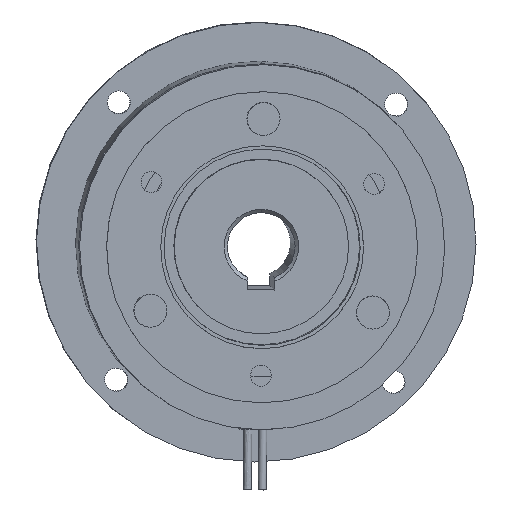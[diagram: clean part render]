
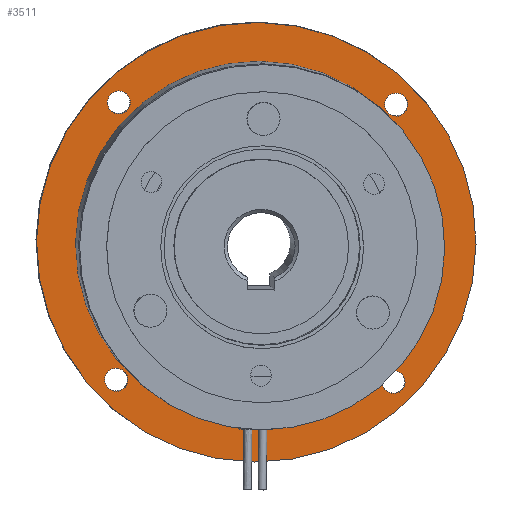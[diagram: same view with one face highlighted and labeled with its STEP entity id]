
A CAD part, top view. The second image highlights one B-rep face of the part: STEP entity #3511.
In plain terms, the highlighted planar face has unit normal (0.035, -0.032, 0.999) as drawn and (0, 0, 1) by its records, which use the part's own axes.
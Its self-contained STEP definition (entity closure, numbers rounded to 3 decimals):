
#2544=CARTESIAN_POINT('',(-32.5,0.,2.0));
#2545=VERTEX_POINT('',#2544);
#2561=CARTESIAN_POINT('',(32.5,0.,2.0));
#2562=VERTEX_POINT('',#2561);
#2569=CARTESIAN_POINT('',(0.0,0.0,2.0));
#2570=DIRECTION('',(0.0,0.0,-1.0));
#2571=DIRECTION('',(-1.0,0.0,0.0));
#2572=AXIS2_PLACEMENT_3D('',#2569,#2570,#2571);
#2573=CIRCLE('',#2572,32.5);
#2574=EDGE_CURVE('',#2562,#2545,#2573,.T.);
#2628=CARTESIAN_POINT('',(-22.206,20.506,2.0));
#2629=VERTEX_POINT('',#2628);
#2645=CARTESIAN_POINT('',(-18.806,20.506,2.0));
#2646=VERTEX_POINT('',#2645);
#2653=CARTESIAN_POINT('',(-20.506,20.506,2.0));
#2654=DIRECTION('',(0.0,0.0,-1.0));
#2655=DIRECTION('',(-1.0,0.0,0.0));
#2656=AXIS2_PLACEMENT_3D('',#2653,#2654,#2655);
#2657=CIRCLE('',#2656,1.7);
#2658=EDGE_CURVE('',#2629,#2646,#2657,.T.);
#2670=CARTESIAN_POINT('',(20.506,22.206,2.0));
#2671=VERTEX_POINT('',#2670);
#2687=CARTESIAN_POINT('',(20.506,18.806,2.0));
#2688=VERTEX_POINT('',#2687);
#2695=CARTESIAN_POINT('',(20.506,20.506,2.0));
#2696=DIRECTION('',(0.0,0.0,-1.0));
#2697=DIRECTION('',(0.0,1.0,0.0));
#2698=AXIS2_PLACEMENT_3D('',#2695,#2696,#2697);
#2699=CIRCLE('',#2698,1.7);
#2700=EDGE_CURVE('',#2671,#2688,#2699,.T.);
#2712=CARTESIAN_POINT('',(-20.506,-22.206,2.0));
#2713=VERTEX_POINT('',#2712);
#2729=CARTESIAN_POINT('',(-20.506,-18.806,2.0));
#2730=VERTEX_POINT('',#2729);
#2737=CARTESIAN_POINT('',(-20.506,-20.506,2.0));
#2738=DIRECTION('',(0.0,0.0,-1.0));
#2739=DIRECTION('',(0.0,-1.0,0.0));
#2740=AXIS2_PLACEMENT_3D('',#2737,#2738,#2739);
#2741=CIRCLE('',#2740,1.7);
#2742=EDGE_CURVE('',#2713,#2730,#2741,.T.);
#2754=CARTESIAN_POINT('',(22.206,-20.506,2.0));
#2755=VERTEX_POINT('',#2754);
#2771=CARTESIAN_POINT('',(18.806,-20.506,2.0));
#2772=VERTEX_POINT('',#2771);
#2779=CARTESIAN_POINT('',(20.506,-20.506,2.0));
#2780=DIRECTION('',(0.0,0.0,-1.0));
#2781=DIRECTION('',(1.0,0.0,0.0));
#2782=AXIS2_PLACEMENT_3D('',#2779,#2780,#2781);
#2783=CIRCLE('',#2782,1.7);
#2784=EDGE_CURVE('',#2755,#2772,#2783,.T.);
#3028=CARTESIAN_POINT('',(-24.925,0.,2.0));
#3029=VERTEX_POINT('',#3028);
#3038=CARTESIAN_POINT('',(24.925,0.,2.0));
#3039=VERTEX_POINT('',#3038);
#3040=CARTESIAN_POINT('',(0.0,0.0,2.0));
#3041=DIRECTION('',(0.0,0.0,1.0));
#3042=DIRECTION('',(-1.0,0.0,0.0));
#3043=AXIS2_PLACEMENT_3D('',#3040,#3041,#3042);
#3044=CIRCLE('',#3043,24.925);
#3045=EDGE_CURVE('',#3029,#3039,#3044,.T.);
#3188=CARTESIAN_POINT('',(0.0,0.0,2.0));
#3189=DIRECTION('',(0.0,0.0,1.0));
#3190=DIRECTION('',(-1.0,0.0,0.0));
#3191=AXIS2_PLACEMENT_3D('',#3188,#3189,#3190);
#3192=CIRCLE('',#3191,24.925);
#3193=EDGE_CURVE('',#3039,#3029,#3192,.T.);
#3350=CARTESIAN_POINT('',(20.506,-20.506,2.0));
#3351=DIRECTION('',(0.0,0.0,-1.0));
#3352=DIRECTION('',(1.0,0.0,0.0));
#3353=AXIS2_PLACEMENT_3D('',#3350,#3351,#3352);
#3354=CIRCLE('',#3353,1.7);
#3355=EDGE_CURVE('',#2772,#2755,#3354,.T.);
#3374=CARTESIAN_POINT('',(-20.506,-20.506,2.0));
#3375=DIRECTION('',(0.0,0.0,-1.0));
#3376=DIRECTION('',(0.0,-1.0,0.0));
#3377=AXIS2_PLACEMENT_3D('',#3374,#3375,#3376);
#3378=CIRCLE('',#3377,1.7);
#3379=EDGE_CURVE('',#2730,#2713,#3378,.T.);
#3398=CARTESIAN_POINT('',(20.506,20.506,2.0));
#3399=DIRECTION('',(0.0,0.0,-1.0));
#3400=DIRECTION('',(0.0,1.0,0.0));
#3401=AXIS2_PLACEMENT_3D('',#3398,#3399,#3400);
#3402=CIRCLE('',#3401,1.7);
#3403=EDGE_CURVE('',#2688,#2671,#3402,.T.);
#3422=CARTESIAN_POINT('',(-20.506,20.506,2.0));
#3423=DIRECTION('',(0.0,0.0,-1.0));
#3424=DIRECTION('',(-1.0,0.0,0.0));
#3425=AXIS2_PLACEMENT_3D('',#3422,#3423,#3424);
#3426=CIRCLE('',#3425,1.7);
#3427=EDGE_CURVE('',#2646,#2629,#3426,.T.);
#3464=CARTESIAN_POINT('',(0.0,0.0,2.0));
#3465=DIRECTION('',(0.0,0.0,-1.0));
#3466=DIRECTION('',(-1.0,0.0,0.0));
#3467=AXIS2_PLACEMENT_3D('',#3464,#3465,#3466);
#3468=CIRCLE('',#3467,32.5);
#3469=EDGE_CURVE('',#2545,#2562,#3468,.T.);
#3482=CARTESIAN_POINT('',(0.0,0.0,2.0));
#3483=DIRECTION('',(0.0,0.0,-1.0));
#3484=DIRECTION('',(-1.0,0.0,0.0));
#3485=AXIS2_PLACEMENT_3D('',#3482,#3483,#3484);
#3486=PLANE('',#3485);
#3487=ORIENTED_EDGE('',*,*,#2574,.F.);
#3488=ORIENTED_EDGE('',*,*,#3469,.F.);
#3489=EDGE_LOOP('',(#3487,#3488));
#3490=FACE_OUTER_BOUND('',#3489,.T.);
#3491=ORIENTED_EDGE('',*,*,#3193,.F.);
#3492=ORIENTED_EDGE('',*,*,#3045,.F.);
#3493=EDGE_LOOP('',(#3491,#3492));
#3494=FACE_BOUND('',#3493,.T.);
#3495=ORIENTED_EDGE('',*,*,#3355,.T.);
#3496=ORIENTED_EDGE('',*,*,#2784,.T.);
#3497=EDGE_LOOP('',(#3495,#3496));
#3498=FACE_BOUND('',#3497,.T.);
#3499=ORIENTED_EDGE('',*,*,#3379,.T.);
#3500=ORIENTED_EDGE('',*,*,#2742,.T.);
#3501=EDGE_LOOP('',(#3499,#3500));
#3502=FACE_BOUND('',#3501,.T.);
#3503=ORIENTED_EDGE('',*,*,#3403,.T.);
#3504=ORIENTED_EDGE('',*,*,#2700,.T.);
#3505=EDGE_LOOP('',(#3503,#3504));
#3506=FACE_BOUND('',#3505,.T.);
#3507=ORIENTED_EDGE('',*,*,#3427,.T.);
#3508=ORIENTED_EDGE('',*,*,#2658,.T.);
#3509=EDGE_LOOP('',(#3507,#3508));
#3510=FACE_BOUND('',#3509,.T.);
#3511=ADVANCED_FACE('',(#3490,#3494,#3498,#3502,#3506,#3510),#3486,.F.);
